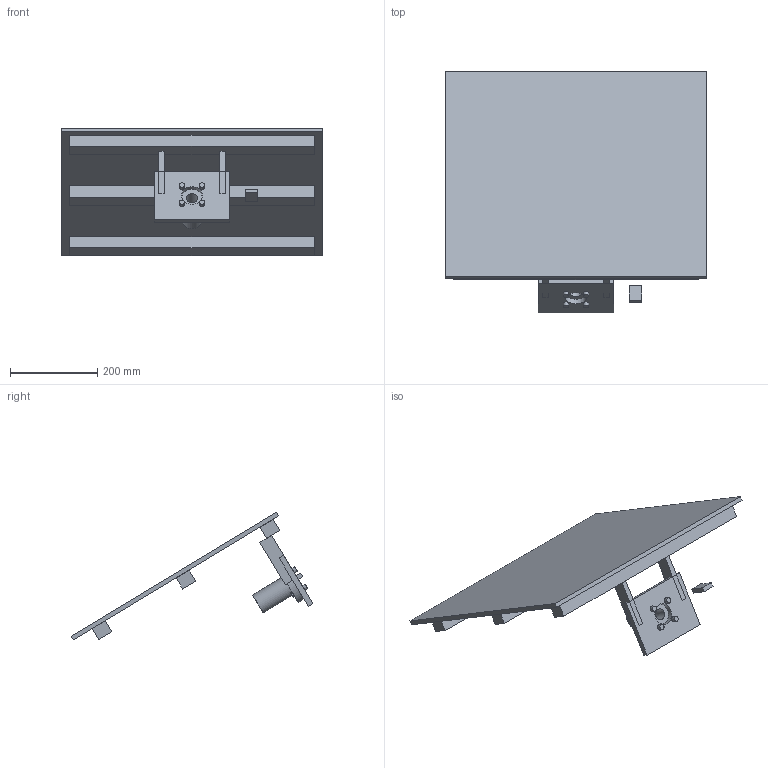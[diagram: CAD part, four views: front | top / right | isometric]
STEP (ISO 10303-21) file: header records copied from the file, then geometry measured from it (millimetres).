
FILE_DESCRIPTION(('Open CASCADE Model'),'2;1');
FILE_NAME('Open CASCADE Shape Model','2026-09-19T12:55:10',('Author'),( 'Open CASCADE'),'Open CASCADE STEP processor 7.9','Open CASCADE 7.9' ,'Unknown');
FILE_SCHEMA(('AUTOMOTIVE_DESIGN { 1 0 10303 214 1 1 1 1 }'));
Length unit declared in the file: millimetre
Products named in the file (14): Open CASCADE STEP translator 7.9 3; Open CASCADE STEP translator 7.9 3.1; Open CASCADE STEP translator 7.9 3.2; Open CASCADE STEP translator 7.9 3.3; Open CASCADE STEP translator 7.9 3.4; Open CASCADE STEP translator 7.9 3.5; Open CASCADE STEP translator 7.9 3.6; Open CASCADE STEP translator 7.9 3.7; Open CASCADE STEP translator 7.9 3.8; Open CASCADE STEP translator 7.9 3.9; Open CASCADE STEP translator 7.9 3.10; Open CASCADE STEP translator 7.9 3.11; Open CASCADE STEP translator 7.9 3.12; Open CASCADE STEP translator 7.9 3.13
Assembly tree (13 placements, depth 2):
  Open CASCADE STEP translator 7.9 3
    Open CASCADE STEP translator 7.9 3.1
    Open CASCADE STEP translator 7.9 3.2
    Open CASCADE STEP translator 7.9 3.3
    Open CASCADE STEP translator 7.9 3.4
    Open CASCADE STEP translator 7.9 3.5
    Open CASCADE STEP translator 7.9 3.6
    Open CASCADE STEP translator 7.9 3.7
    Open CASCADE STEP translator 7.9 3.8
    Open CASCADE STEP translator 7.9 3.9
    Open CASCADE STEP translator 7.9 3.10
    Open CASCADE STEP translator 7.9 3.11
    Open CASCADE STEP translator 7.9 3.12
    Open CASCADE STEP translator 7.9 3.13
Bounding box: 600 x 554.42 x 292.84 mm (x, y, z)
Volume: 5600006 mm3; surface area: 1027541.2 mm2
Topology: 13 solids, 13 shells, 75 faces, 144 edges, 96 vertices
Faces by surface type: plane 59, cylinder 16
Full cylindrical faces by diameter (mm): 12 x4, 13.5 x8, 25 x1, 47 x1, 48 x1, 90 x1
Entity records: 4037 total; most frequent: CARTESIAN_POINT 647, DIRECTION 637, LINE 368, VECTOR 368, ORIENTED_EDGE 288, PCURVE 288, DEFINITIONAL_REPRESENTATION 288, EDGE_CURVE 144
